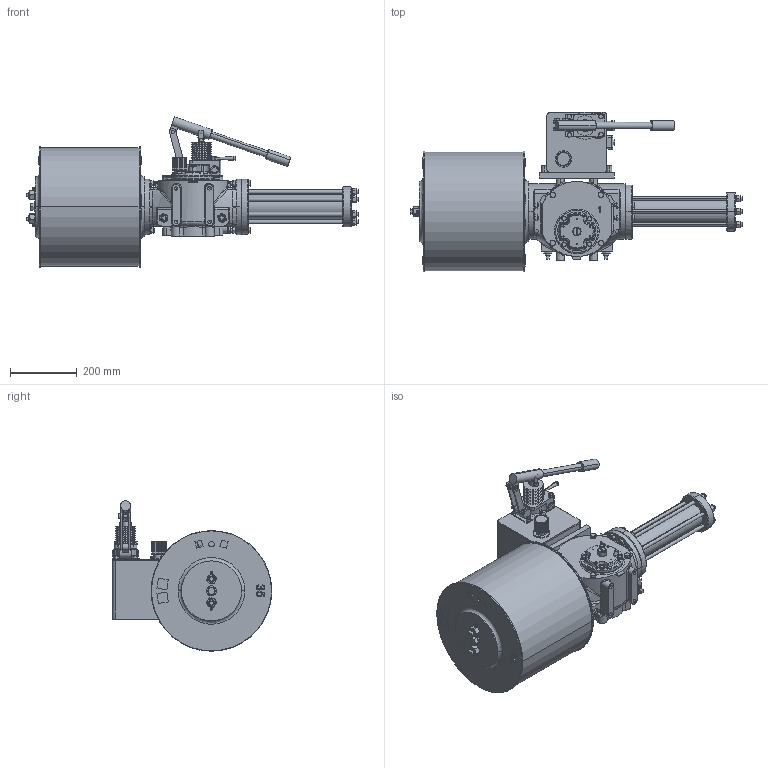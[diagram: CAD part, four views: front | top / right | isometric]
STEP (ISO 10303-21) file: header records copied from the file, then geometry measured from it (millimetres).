
FILE_DESCRIPTION (( 'STEP AP203' ), '1' );
FILE_NAME ('VTS1-350-MH.STEP', '2023-01-01T07:44:50', ( '' ), ( '' ), 'SwSTEP 2.0', 'SolidWorks 2020', '' );
FILE_SCHEMA (( 'CONFIG_CONTROL_DESIGN' ));
Length unit declared in the file: millimetre
Products named in the file (1): VTS1-350-MH
Bounding box: 996 x 478.9 x 451.27 mm (x, y, z)
Volume: 43142742.3 mm3; surface area: 1813416.2 mm2
Topology: 59 solids, 65 shells, 2565 faces, 6426 edges, 4071 vertices
Faces by surface type: plane 965, cylinder 807, cone 494, bspline 237, torus 34, sphere 28
Entity records: 102799 total; most frequent: CARTESIAN_POINT 44379, ORIENTED_EDGE 12696, DIRECTION 11246, EDGE_CURVE 6348, AXIS2_PLACEMENT_3D 4337, VERTEX_POINT 4071, EDGE_LOOP 2879, VECTOR 2572
